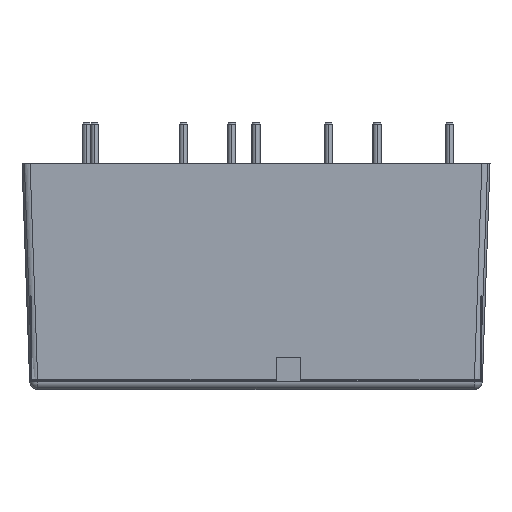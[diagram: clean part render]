
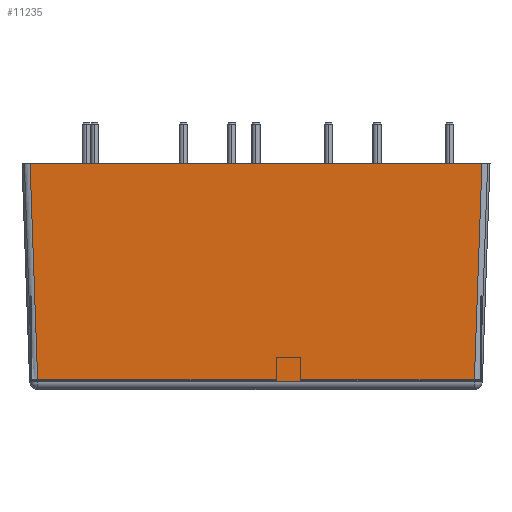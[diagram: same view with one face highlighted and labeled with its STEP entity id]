
A CAD part, left-side view. The second image highlights one B-rep face of the part: STEP entity #11235.
In plain terms, the highlighted planar face has unit normal (-0.999, 0, -0.035).
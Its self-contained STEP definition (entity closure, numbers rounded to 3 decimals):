
#11016=CARTESIAN_POINT('',(0.944,56.057,0.965));
#11017=VERTEX_POINT('',#11016);
#11025=CARTESIAN_POINT('',(0.,57.001,28.));
#11026=VERTEX_POINT('',#11025);
#11027=CARTESIAN_POINT('',(0.944,56.057,0.965));
#11028=DIRECTION('',(-0.035,0.035,0.999));
#11029=VECTOR('',#11028,27.068);
#11030=LINE('',#11027,#11029);
#11031=EDGE_CURVE('',#11017,#11026,#11030,.T.);
#11205=CARTESIAN_POINT('',(0.977,0.0,0.017));
#11206=DIRECTION('',(-0.999,0.,-0.035));
#11207=DIRECTION('',(-0.035,0.,0.999));
#11208=AXIS2_PLACEMENT_3D('',#11205,#11206,#11207);
#11209=PLANE('',#11208);
#11210=CARTESIAN_POINT('',(0.,0.999,28.));
#11211=VERTEX_POINT('',#11210);
#11212=CARTESIAN_POINT('',(0.944,1.943,0.965));
#11213=VERTEX_POINT('',#11212);
#11214=CARTESIAN_POINT('',(0.,0.999,28.));
#11215=DIRECTION('',(0.035,0.035,-0.999));
#11216=VECTOR('',#11215,27.068);
#11217=LINE('',#11214,#11216);
#11218=EDGE_CURVE('',#11211,#11213,#11217,.T.);
#11219=ORIENTED_EDGE('',*,*,#11218,.F.);
#11220=CARTESIAN_POINT('',(0.,0.999,28.));
#11221=DIRECTION('',(0.0,1.0,0.0));
#11222=VECTOR('',#11221,56.001);
#11223=LINE('',#11220,#11222);
#11224=EDGE_CURVE('',#11211,#11026,#11223,.T.);
#11225=ORIENTED_EDGE('',*,*,#11224,.T.);
#11226=ORIENTED_EDGE('',*,*,#11031,.F.);
#11227=CARTESIAN_POINT('',(0.944,1.943,0.965));
#11228=DIRECTION('',(0.0,1.0,0.0));
#11229=VECTOR('',#11228,54.113);
#11230=LINE('',#11227,#11229);
#11231=EDGE_CURVE('',#11213,#11017,#11230,.T.);
#11232=ORIENTED_EDGE('',*,*,#11231,.F.);
#11233=EDGE_LOOP('',(#11219,#11225,#11226,#11232));
#11234=FACE_OUTER_BOUND('',#11233,.T.);
#11235=ADVANCED_FACE('',(#11234),#11209,.T.);
